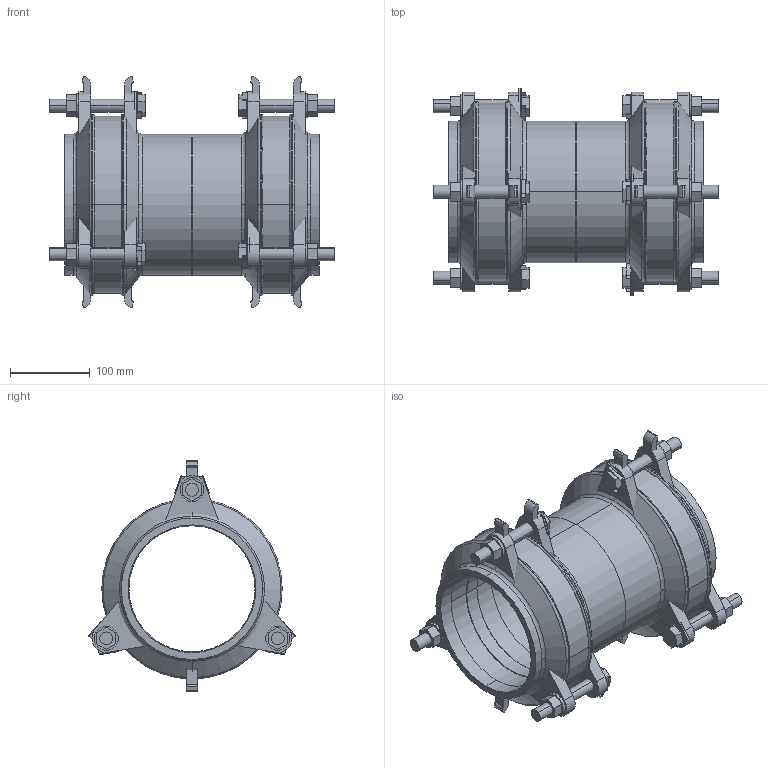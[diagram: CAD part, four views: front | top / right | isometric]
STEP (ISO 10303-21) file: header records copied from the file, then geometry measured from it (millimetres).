
FILE_DESCRIPTION(('STEP AP214'),'1');
FILE_NAME('MJ000047 DN 125.STP','2015-02-06T12:06:41',(' '),(' '),'Spatial InterOp 3D',' ',' ');
FILE_SCHEMA(('automotive_design'));
Length unit declared in the file: millimetre
Products named in the file (66): 3D-Objekt
Bounding box: 357 x 259.24 x 290 mm (x, y, z)
Volume: 3537917.2 mm3; surface area: 926780.4 mm2
Topology: 66 solids, 66 shells, 526 faces, 1178 edges, 784 vertices
Faces by surface type: plane 352, cylinder 134, torus 24, cone 16
Entity records: 20426 total; most frequent: DIRECTION 2730, CARTESIAN_POINT 2554, ORIENTED_EDGE 2356, EDGE_CURVE 1178, AXIS2_PLACEMENT_3D 960, LINE 810, VECTOR 810, VERTEX_POINT 784
